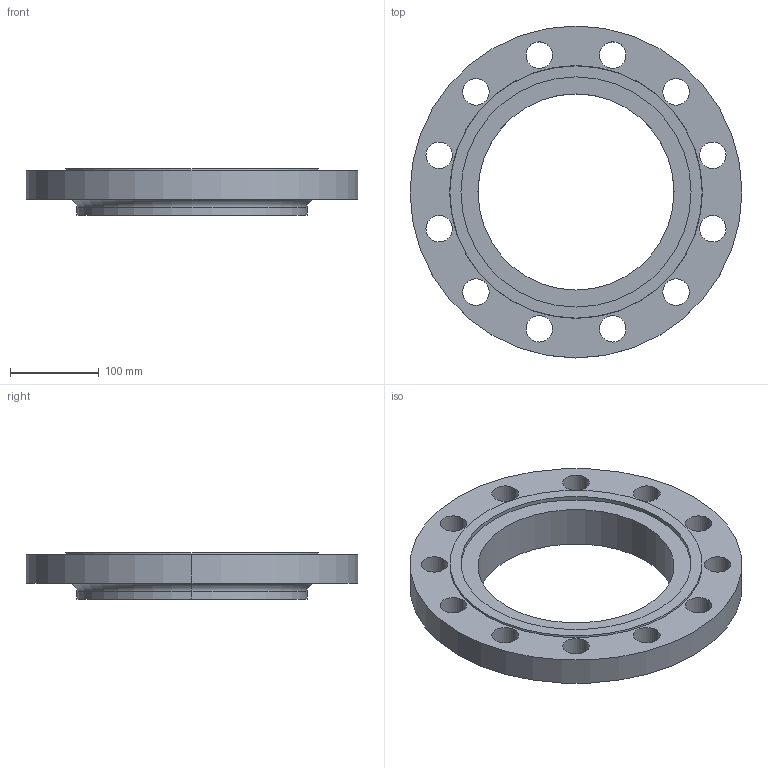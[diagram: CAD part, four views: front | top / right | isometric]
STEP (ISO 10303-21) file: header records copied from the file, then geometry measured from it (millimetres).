
FILE_DESCRIPTION (( 'STEP AP214' ), '1' );
FILE_NAME ('PN40 DN200 Type 12 - Type F Face.STEP', '2019-01-05T02:14:31', ( '' ), ( '' ), 'SwSTEP 2.0', 'SolidWorks 2019', '' );
FILE_SCHEMA (( 'AUTOMOTIVE_DESIGN' ));
Length unit declared in the file: millimetre
Products named in the file (1): PN40 DN200 Type 12 - Type F Face
Bounding box: 375 x 375 x 52 mm (x, y, z)
Volume: 2295010.1 mm3; surface area: 250227 mm2
Topology: 1 solids, 1 shells, 41 faces, 106 edges, 70 vertices
Faces by surface type: cylinder 32, plane 5, torus 2, cone 2
Entity records: 1382 total; most frequent: DIRECTION 262, CARTESIAN_POINT 218, ORIENTED_EDGE 212, AXIS2_PLACEMENT_3D 114, EDGE_CURVE 106, CIRCLE 72, EDGE_LOOP 70, VERTEX_POINT 70
